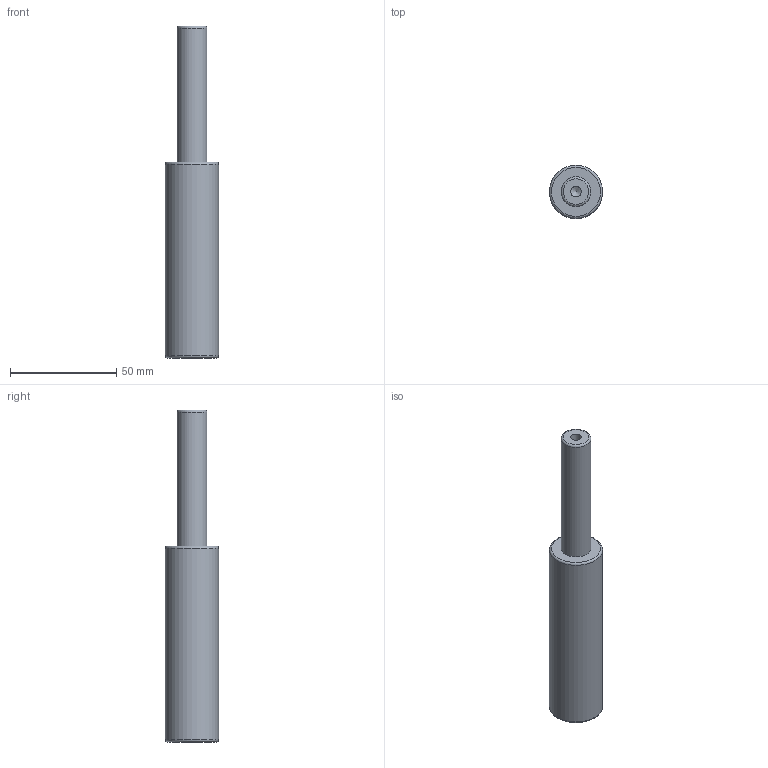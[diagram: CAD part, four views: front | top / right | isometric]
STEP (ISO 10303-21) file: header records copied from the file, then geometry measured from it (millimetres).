
FILE_DESCRIPTION(/* description */ (''),/* implementation_level */ '2;1');
FILE_NAME(/* name */ 'NV5-SMLX.25x63.stp',/* time_stamp */ '2018-08-31T16:08:37+02:00',/* author */ (''),/* organization */ (''),/* preprocessor_version */ 'ST-DEVELOPER v16',/* originating_system */ 'SIEMENS PLM Software NX 10.0',/* authorisation */ '');
FILE_SCHEMA (('AUTOMOTIVE_DESIGN { 1 0 10303 214 3 1 1 1 }'));
Length unit declared in the file: millimetre
Products named in the file (1): NV5-SMLX.25x63
Bounding box: 25 x 25 x 156 mm (x, y, z)
Volume: 54518.6 mm3; surface area: 11286.8 mm2
Topology: 1 solids, 1 shells, 12 faces, 24 edges, 15 vertices
Faces by surface type: cylinder 4, torus 3, plane 3, cone 2
Full cylindrical faces by diameter (mm): 5 x2, 14 x1, 25 x1
Entity records: 266 total; most frequent: DIRECTION 48, CARTESIAN_POINT 37, FACE_BOUND 24, AXIS2_PLACEMENT_3D 24, EDGE_LOOP 22, ORIENTED_EDGE 22, VERTEX_POINT 13, ADVANCED_FACE 12
